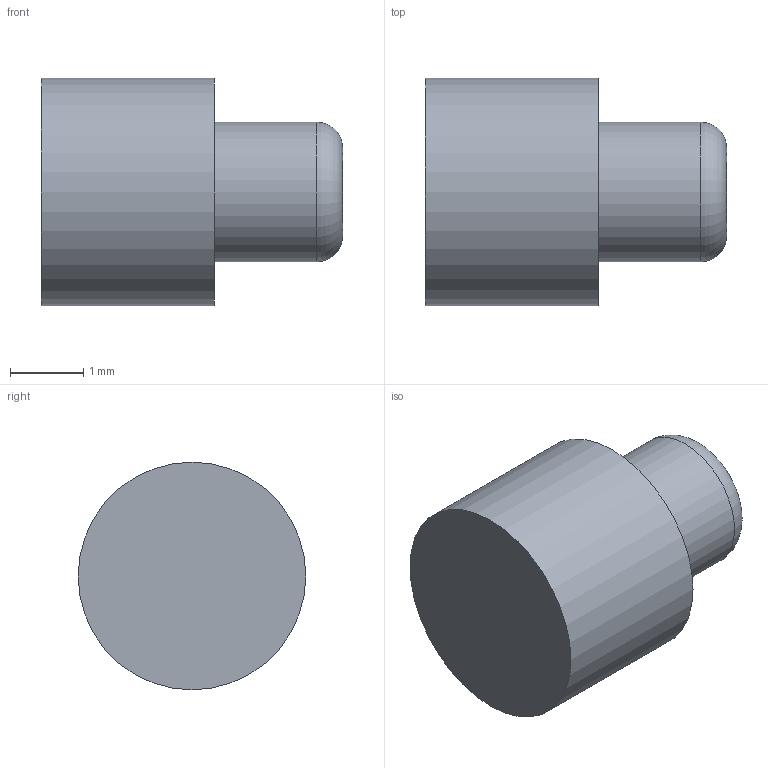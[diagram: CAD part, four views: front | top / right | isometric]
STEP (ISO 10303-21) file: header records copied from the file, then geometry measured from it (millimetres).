
FILE_DESCRIPTION(('Open CASCADE Model'),'2;1');
FILE_NAME('Open CASCADE Shape Model','2026-10-23T21:53:46',('Author'),( 'Open CASCADE'),'Open CASCADE STEP processor 8.0','build123d', 'Unknown');
FILE_SCHEMA(('AUTOMOTIVE_DESIGN { 1 0 10303 214 1 1 1 1 }'));
Length unit declared in the file: millimetre
Products named in the file (1): COMPOUND
Bounding box: 4.1 x 3.1 x 3.1 mm (x, y, z)
Volume: 22.6 mm3; surface area: 47.5 mm2
Topology: 1 solids, 1 shells, 6 faces, 8 edges, 5 vertices
Faces by surface type: plane 3, cylinder 2, torus 1
Full cylindrical faces by diameter (mm): 1.9 x1, 3.1 x1
Entity records: 242 total; most frequent: DIRECTION 42, CARTESIAN_POINT 38, ORIENTED_EDGE 16, PCURVE 16, DEFINITIONAL_REPRESENTATION 16, AXIS2_PLACEMENT_3D 13, LINE 12, VECTOR 12
